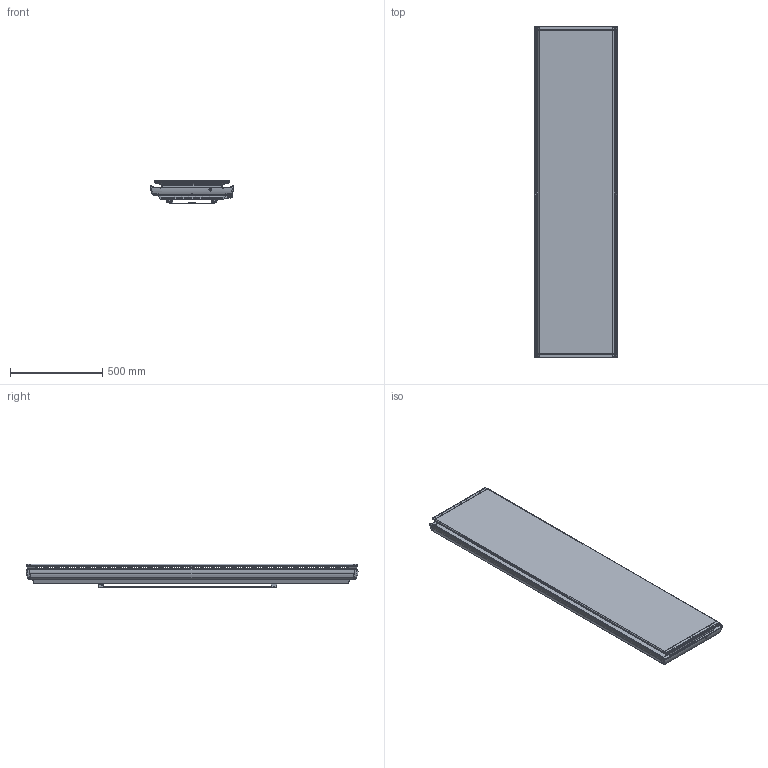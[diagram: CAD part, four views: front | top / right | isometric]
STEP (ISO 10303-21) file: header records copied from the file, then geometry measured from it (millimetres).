
FILE_DESCRIPTION(('FreeCAD Model'),'2;1');
FILE_NAME('Open CASCADE Shape Model','2026-06-08T14:28:09',(''),(''), 'Open CASCADE STEP processor 7.8','FreeCAD','Unknown');
FILE_SCHEMA(('AUTOMOTIVE_DESIGN { 1 0 10303 214 1 1 1 1 }'));
Length unit declared in the file: millimetre
Products named in the file (15): Unnamed; ICO_GR-SUPPORTO-MURALE_2000_ASM; ICO_SUPPORTO-MURALE-SUP; ICO_TRAVERSA-SUPPORTO-2000W; ICO_SUPPORTO-MURALE-INF; ICO_GR-POSTERIORE_2000W_ASM; ICO_POSTERIORE_2000W; DEK_AGGANCIO-SUPPORTO; ICO_COPERTURA-LATERALE-COMANDI; ICO_ADESIVO; ICO_GR-ANTERIORE_2000W_ASM; ICO_ANTERIORE_2000W; ICO_ESTRUSO_2000W_DX-DISPLAY; ICO_ESTRUSO_2000W_SX; ICO_TAPPO
Assembly tree (16 placements, depth 3):
  Unnamed
    ICO_GR-SUPPORTO-MURALE_2000_ASM
      ICO_SUPPORTO-MURALE-SUP
      ICO_TRAVERSA-SUPPORTO-2000W
      ICO_SUPPORTO-MURALE-INF
    ICO_GR-POSTERIORE_2000W_ASM
      ICO_POSTERIORE_2000W
      DEK_AGGANCIO-SUPPORTO  x2
    ICO_COPERTURA-LATERALE-COMANDI
    ICO_ADESIVO
    ICO_GR-ANTERIORE_2000W_ASM
      ICO_ANTERIORE_2000W
      ICO_ESTRUSO_2000W_DX-DISPLAY
      ICO_ESTRUSO_2000W_SX
      ICO_TAPPO  x2
Bounding box: 449.69 x 1800.4 x 126.2 mm (x, y, z)
Volume: 3104482.7 mm3; surface area: 5664894 mm2
Topology: 13 solids, 13 shells, 4495 faces, 12553 edges, 8123 vertices
Faces by surface type: plane 2945, cylinder 1007, bspline 312, cone 155, torus 46, sphere 30
Entity records: 135570 total; most frequent: CARTESIAN_POINT 36999, ORIENTED_EDGE 21352, DIRECTION 18448, EDGE_CURVE 10676, LINE 7774, VECTOR 7774, VERTEX_POINT 6921, AXIS2_PLACEMENT_3D 5337
